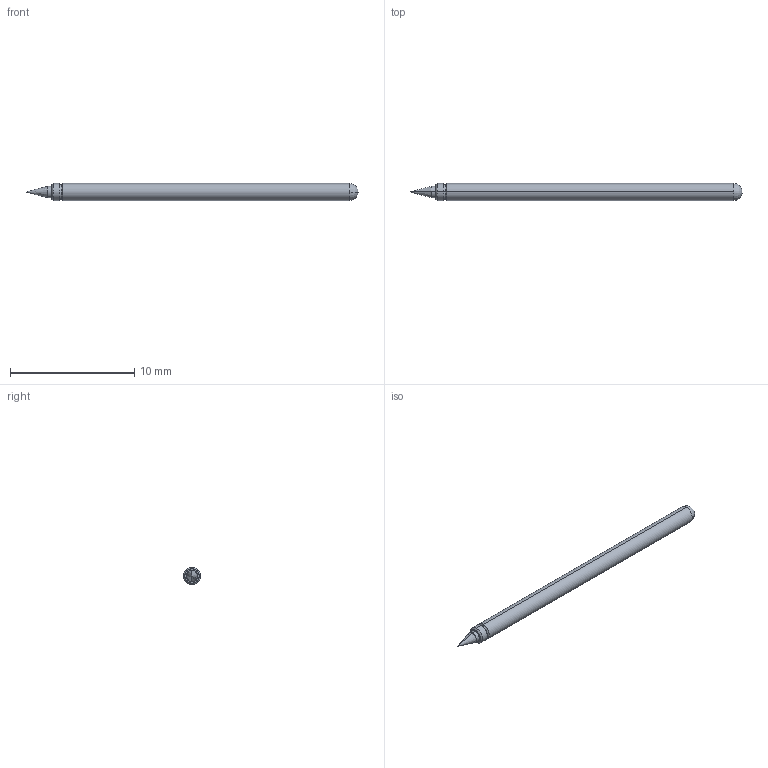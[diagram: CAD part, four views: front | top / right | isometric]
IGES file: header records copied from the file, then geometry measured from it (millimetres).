
Start section: SolidWorks IGES file using analytic representation for surfaces
Global section: file name: Z:\probe solid model mockups\Solidworks models\IGES Files\HCP-25 IGES files\HCP-25B Full.IGS; native system: SolidWorks 2006 by SolidWorks Corporation; preprocessor: SolidWorks 2006 by SolidWorks Corporation; author: tsakatani; date: 080102.152122; units: inch
Bounding box: 26.67 x 1.37 x 1.37 mm (x, y, z)
Surface area: 110.6 mm2 (no closed solid volume)
Topology: 0 solids, 0 shells, 20 faces, 124 edges, 122 vertices
Faces by surface type: revolution 14, bspline 6
